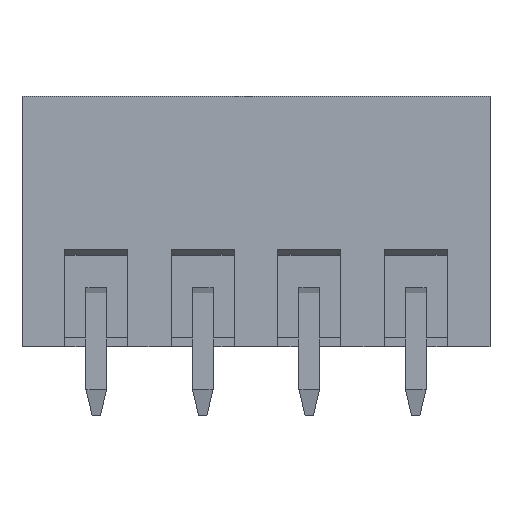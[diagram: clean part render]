
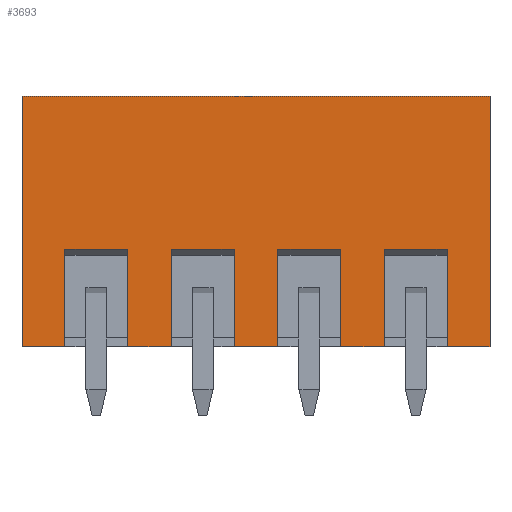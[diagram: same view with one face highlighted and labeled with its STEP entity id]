
A CAD part, front view. The second image highlights one B-rep face of the part: STEP entity #3693.
In plain terms, the highlighted planar face has unit normal (0, -1, 0).
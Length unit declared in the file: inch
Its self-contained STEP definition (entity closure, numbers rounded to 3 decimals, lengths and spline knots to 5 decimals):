
#1=DIRECTION('',(0.,0.,-1.));
#2=VECTOR('',#1,0.47);
#3=CARTESIAN_POINT('',(-0.4395,0.,0.47));
#4=LINE('',#3,#2);
#29=DIRECTION('',(0.,0.,1.));
#30=VECTOR('',#29,0.183);
#31=CARTESIAN_POINT('',(-0.359,0.,0.));
#32=LINE('',#31,#30);
#33=DIRECTION('',(1.,0.,0.));
#34=VECTOR('',#33,0.879);
#35=CARTESIAN_POINT('',(-0.4395,0.,0.47));
#36=LINE('',#35,#34);
#37=DIRECTION('',(0.,0.,1.));
#38=VECTOR('',#37,0.183);
#39=CARTESIAN_POINT('',(0.359,0.,0.));
#40=LINE('',#39,#38);
#41=DIRECTION('',(1.,0.,0.));
#42=VECTOR('',#41,0.118);
#43=CARTESIAN_POINT('',(0.241,0.,0.183));
#44=LINE('',#43,#42);
#45=DIRECTION('',(0.,0.,1.));
#46=VECTOR('',#45,0.183);
#47=CARTESIAN_POINT('',(0.241,0.,0.));
#48=LINE('',#47,#46);
#49=DIRECTION('',(0.,0.,1.));
#50=VECTOR('',#49,0.183);
#51=CARTESIAN_POINT('',(0.159,0.,0.));
#52=LINE('',#51,#50);
#53=DIRECTION('',(1.,0.,0.));
#54=VECTOR('',#53,0.118);
#55=CARTESIAN_POINT('',(0.041,0.,0.183));
#56=LINE('',#55,#54);
#57=DIRECTION('',(0.,0.,1.));
#58=VECTOR('',#57,0.183);
#59=CARTESIAN_POINT('',(0.041,0.,0.));
#60=LINE('',#59,#58);
#61=DIRECTION('',(0.,0.,1.));
#62=VECTOR('',#61,0.183);
#63=CARTESIAN_POINT('',(-0.041,0.,0.));
#64=LINE('',#63,#62);
#65=DIRECTION('',(1.,0.,0.));
#66=VECTOR('',#65,0.118);
#67=CARTESIAN_POINT('',(-0.159,0.,0.183));
#68=LINE('',#67,#66);
#69=DIRECTION('',(0.,0.,1.));
#70=VECTOR('',#69,0.183);
#71=CARTESIAN_POINT('',(-0.159,0.,0.));
#72=LINE('',#71,#70);
#73=DIRECTION('',(0.,0.,1.));
#74=VECTOR('',#73,0.183);
#75=CARTESIAN_POINT('',(-0.241,0.,0.));
#76=LINE('',#75,#74);
#77=DIRECTION('',(1.,0.,0.));
#78=VECTOR('',#77,0.118);
#79=CARTESIAN_POINT('',(-0.359,0.,0.183));
#80=LINE('',#79,#78);
#129=DIRECTION('',(1.,0.,0.));
#130=VECTOR('',#129,0.082);
#131=CARTESIAN_POINT('',(-0.241,0.,0.));
#132=LINE('',#131,#130);
#145=DIRECTION('',(1.,0.,0.));
#146=VECTOR('',#145,0.082);
#147=CARTESIAN_POINT('',(-0.041,0.,0.));
#148=LINE('',#147,#146);
#161=DIRECTION('',(1.,0.,0.));
#162=VECTOR('',#161,0.082);
#163=CARTESIAN_POINT('',(0.159,0.,0.));
#164=LINE('',#163,#162);
#177=DIRECTION('',(1.,0.,0.));
#178=VECTOR('',#177,0.0805);
#179=CARTESIAN_POINT('',(0.359,0.,0.));
#180=LINE('',#179,#178);
#181=DIRECTION('',(1.,0.,0.));
#182=VECTOR('',#181,0.0805);
#183=CARTESIAN_POINT('',(-0.4395,0.,0.));
#184=LINE('',#183,#182);
#1558=DIRECTION('',(0.,0.,-1.));
#1559=VECTOR('',#1558,0.47);
#1560=CARTESIAN_POINT('',(0.4395,0.,0.47));
#1561=LINE('',#1560,#1559);
#2785=CARTESIAN_POINT('',(-0.4395,0.,0.47));
#2786=CARTESIAN_POINT('',(-0.4395,0.,0.));
#2787=VERTEX_POINT('',#2785);
#2788=VERTEX_POINT('',#2786);
#2799=CARTESIAN_POINT('',(0.4395,0.,0.47));
#2800=CARTESIAN_POINT('',(0.4395,0.,0.));
#2801=VERTEX_POINT('',#2799);
#2802=VERTEX_POINT('',#2800);
#2938=CARTESIAN_POINT('',(0.241,0.,0.));
#2939=CARTESIAN_POINT('',(0.241,0.,0.183));
#2940=VERTEX_POINT('',#2938);
#2941=VERTEX_POINT('',#2939);
#2942=CARTESIAN_POINT('',(0.359,0.,0.));
#2943=CARTESIAN_POINT('',(0.359,0.,0.183));
#2944=VERTEX_POINT('',#2942);
#2945=VERTEX_POINT('',#2943);
#3286=CARTESIAN_POINT('',(0.041,0.,0.));
#3287=CARTESIAN_POINT('',(0.041,0.,0.183));
#3288=VERTEX_POINT('',#3286);
#3289=VERTEX_POINT('',#3287);
#3290=CARTESIAN_POINT('',(0.159,0.,0.));
#3291=CARTESIAN_POINT('',(0.159,0.,0.183));
#3292=VERTEX_POINT('',#3290);
#3293=VERTEX_POINT('',#3291);
#3322=CARTESIAN_POINT('',(-0.159,0.,0.));
#3323=CARTESIAN_POINT('',(-0.159,0.,0.183));
#3324=VERTEX_POINT('',#3322);
#3325=VERTEX_POINT('',#3323);
#3326=CARTESIAN_POINT('',(-0.041,0.,0.));
#3327=CARTESIAN_POINT('',(-0.041,0.,0.183));
#3328=VERTEX_POINT('',#3326);
#3329=VERTEX_POINT('',#3327);
#3358=CARTESIAN_POINT('',(-0.359,0.,0.));
#3359=CARTESIAN_POINT('',(-0.359,0.,0.183));
#3360=VERTEX_POINT('',#3358);
#3361=VERTEX_POINT('',#3359);
#3362=CARTESIAN_POINT('',(-0.241,0.,0.));
#3363=CARTESIAN_POINT('',(-0.241,0.,0.183));
#3364=VERTEX_POINT('',#3362);
#3365=VERTEX_POINT('',#3363);
#3647=CARTESIAN_POINT('',(-0.4395,0.,0.47));
#3648=DIRECTION('',(0.,-1.,0.));
#3649=DIRECTION('',(0.,0.,-1.));
#3650=AXIS2_PLACEMENT_3D('',#3647,#3648,#3649);
#3651=PLANE('',#3650);
#3653=ORIENTED_EDGE('',*,*,#3652,.F.);
#3655=ORIENTED_EDGE('',*,*,#3654,.F.);
#3656=ORIENTED_EDGE('',*,*,#3630,.F.);
#3658=ORIENTED_EDGE('',*,*,#3657,.T.);
#3660=ORIENTED_EDGE('',*,*,#3659,.T.);
#3662=ORIENTED_EDGE('',*,*,#3661,.F.);
#3664=ORIENTED_EDGE('',*,*,#3663,.T.);
#3666=ORIENTED_EDGE('',*,*,#3665,.F.);
#3668=ORIENTED_EDGE('',*,*,#3667,.F.);
#3670=ORIENTED_EDGE('',*,*,#3669,.F.);
#3672=ORIENTED_EDGE('',*,*,#3671,.T.);
#3674=ORIENTED_EDGE('',*,*,#3673,.F.);
#3676=ORIENTED_EDGE('',*,*,#3675,.F.);
#3678=ORIENTED_EDGE('',*,*,#3677,.F.);
#3680=ORIENTED_EDGE('',*,*,#3679,.T.);
#3682=ORIENTED_EDGE('',*,*,#3681,.F.);
#3684=ORIENTED_EDGE('',*,*,#3683,.F.);
#3686=ORIENTED_EDGE('',*,*,#3685,.F.);
#3688=ORIENTED_EDGE('',*,*,#3687,.T.);
#3690=ORIENTED_EDGE('',*,*,#3689,.F.);
#3691=EDGE_LOOP('',(#3653,#3655,#3656,#3658,#3660,#3662,#3664,#3666,#3668,#3670,
#3672,#3674,#3676,#3678,#3680,#3682,#3684,#3686,#3688,#3690));
#3692=FACE_OUTER_BOUND('',#3691,.F.);
#3693=ADVANCED_FACE('',(#3692),#3651,.T.);
#3630=EDGE_CURVE('',#2787,#2788,#4,.T.);
#3652=EDGE_CURVE('',#3360,#3361,#32,.T.);
#3654=EDGE_CURVE('',#2788,#3360,#184,.T.);
#3657=EDGE_CURVE('',#2787,#2801,#36,.T.);
#3659=EDGE_CURVE('',#2801,#2802,#1561,.T.);
#3661=EDGE_CURVE('',#2944,#2802,#180,.T.);
#3663=EDGE_CURVE('',#2944,#2945,#40,.T.);
#3665=EDGE_CURVE('',#2941,#2945,#44,.T.);
#3667=EDGE_CURVE('',#2940,#2941,#48,.T.);
#3669=EDGE_CURVE('',#3292,#2940,#164,.T.);
#3671=EDGE_CURVE('',#3292,#3293,#52,.T.);
#3673=EDGE_CURVE('',#3289,#3293,#56,.T.);
#3675=EDGE_CURVE('',#3288,#3289,#60,.T.);
#3677=EDGE_CURVE('',#3328,#3288,#148,.T.);
#3679=EDGE_CURVE('',#3328,#3329,#64,.T.);
#3681=EDGE_CURVE('',#3325,#3329,#68,.T.);
#3683=EDGE_CURVE('',#3324,#3325,#72,.T.);
#3685=EDGE_CURVE('',#3364,#3324,#132,.T.);
#3687=EDGE_CURVE('',#3364,#3365,#76,.T.);
#3689=EDGE_CURVE('',#3361,#3365,#80,.T.);
